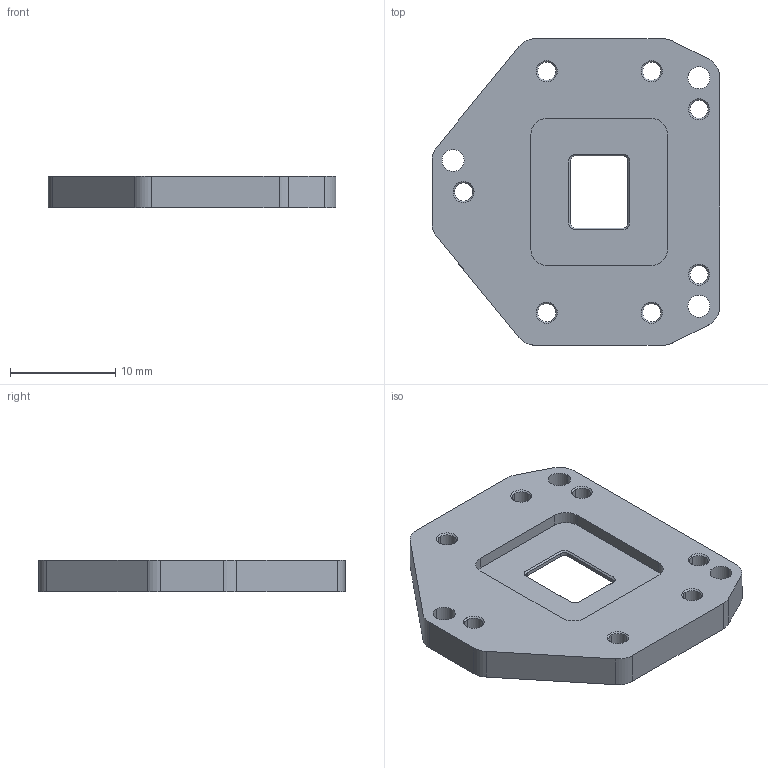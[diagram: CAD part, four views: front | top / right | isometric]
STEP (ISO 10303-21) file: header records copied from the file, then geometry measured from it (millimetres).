
FILE_DESCRIPTION(/* description */ ('VariCAD 2010-2.03 AP-203'),/* implementation_level */ '2;1');
FILE_NAME(/* name */ '0353-12-30',/* time_stamp */ '2010-04-01T09:51:12-06:00',/* author */ (''),/* organization */ (''),/* preprocessor_version */ 'ST-DEVELOPER v12',/* originating_system */ 'VariCAD 2010-2.03; kernel version (20100102)',/* authorisation */ '');
FILE_SCHEMA (('CONFIG_CONTROL_DESIGN'));
Length unit declared in the file: millimetre
Products named in the file (1): Part
Bounding box: 27.41 x 29.17 x 3 mm (x, y, z)
Volume: 1588.1 mm3; surface area: 2105.4 mm2
Topology: 8 solids, 8 shells, 124 faces, 294 edges, 184 vertices
Faces by surface type: cylinder 72, plane 34, cone 18
Entity records: 3744 total; most frequent: DIRECTION 708, CARTESIAN_POINT 611, ORIENTED_EDGE 588, EDGE_CURVE 294, AXIS2_PLACEMENT_3D 281, VERTEX_POINT 184, EDGE_LOOP 158, CIRCLE 148
